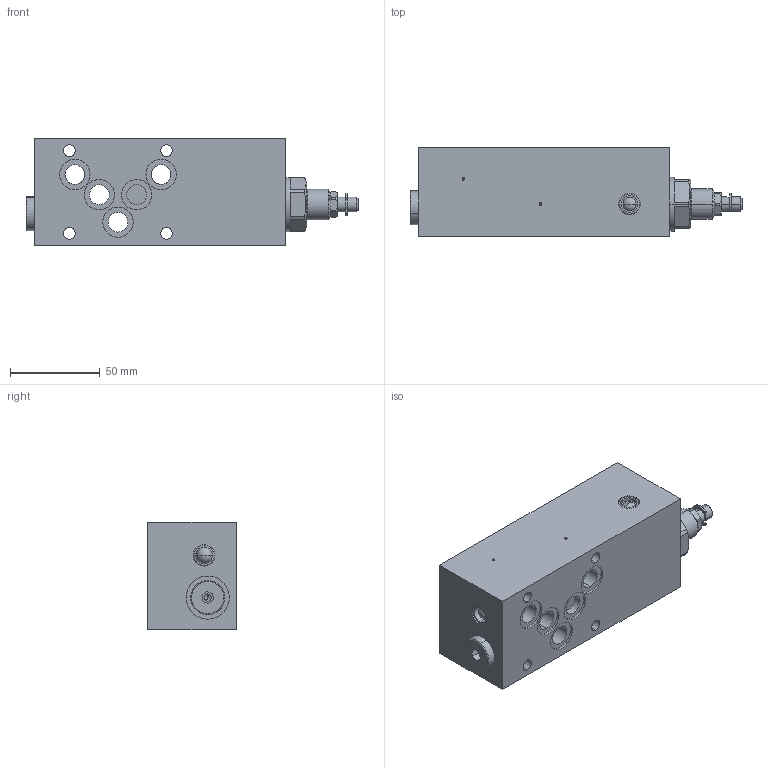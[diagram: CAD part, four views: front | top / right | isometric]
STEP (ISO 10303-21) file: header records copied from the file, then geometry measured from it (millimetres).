
FILE_DESCRIPTION (( 'STEP AP214' ), '1' );
FILE_NAME ('MVSSA10-B.STEP', '2017-03-23T06:18:17', ( '' ), ( '' ), 'SwSTEP 2.0', 'SolidWorks 2016', '' );
FILE_SCHEMA (( 'AUTOMOTIVE_DESIGN' ));
Length unit declared in the file: millimetre
Products named in the file (1): MVSSA10-B
Bounding box: 184.8 x 49.5 x 60 mm (x, y, z)
Volume: 399829.2 mm3; surface area: 52177 mm2
Topology: 3 solids, 7 shells, 298 faces, 744 edges, 474 vertices
Faces by surface type: cylinder 121, plane 94, cone 53, torus 24, sphere 6
Entity records: 12958 total; most frequent: CARTESIAN_POINT 2460, DIRECTION 1587, ORIENTED_EDGE 1468, EDGE_CURVE 734, AXIS2_PLACEMENT_3D 665, VERTEX_POINT 474, CIRCLE 366, EDGE_LOOP 348
